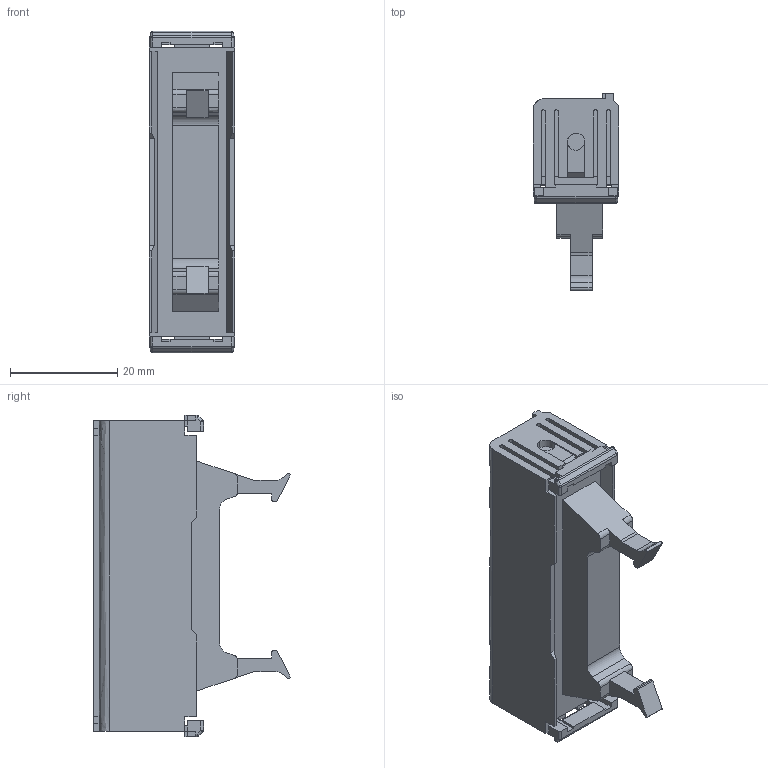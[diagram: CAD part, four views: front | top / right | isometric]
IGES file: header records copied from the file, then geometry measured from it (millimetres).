
Start section: ------------------------------------------------------------------------
Global section: file name: D:\ICADMX\tmp\trans3d_spg\CVICAD02.16560.FZX-F20x_8814.igs; native system: spGate; preprocessor: ver12.6.6; author: Unknown; organization: Unknown; date: 200901.142539; units: millimetre
Bounding box: 16 x 36.7 x 60 mm (x, y, z)
Volume: 17420.3 mm3; surface area: 7065.3 mm2
Topology: 1 solids, 1 shells, 220 faces, 665 edges, 426 vertices
Faces by surface type: bspline 220
